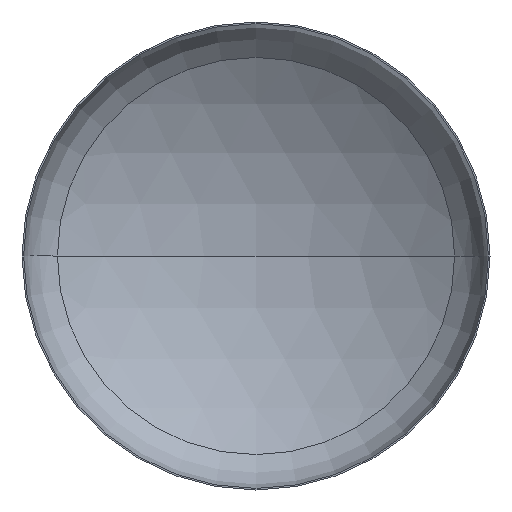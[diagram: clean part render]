
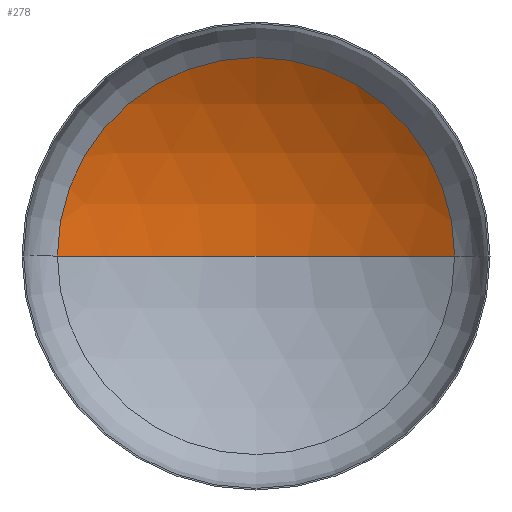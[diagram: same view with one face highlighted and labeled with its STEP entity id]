
A CAD part, front view. The second image highlights one B-rep face of the part: STEP entity #278.
In plain terms, the highlighted spherical face has radius 6000 mm.
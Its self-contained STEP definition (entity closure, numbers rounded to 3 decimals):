
#1 = DIRECTION ( 'NONE',  ( 1., 0., 0. ) ) ;
#3 = DIRECTION ( 'NONE',  ( 0., 0., 1. ) ) ;
#21 = ORIENTED_EDGE ( 'NONE', *, *, #157, .F. ) ;
#31 = VERTEX_POINT ( 'NONE', #271 ) ;
#38 = VERTEX_POINT ( 'NONE', #273 ) ;
#47 = AXIS2_PLACEMENT_3D ( 'NONE', #167, #382, #61 ) ;
#61 = DIRECTION ( 'NONE',  ( -1., 0., 0. ) ) ;
#96 = VERTEX_POINT ( 'NONE', #236 ) ;
#99 = AXIS2_PLACEMENT_3D ( 'NONE', #404, #3, #1 ) ;
#101 = EDGE_LOOP ( 'NONE', ( #21, #105, #117 ) ) ;
#105 = ORIENTED_EDGE ( 'NONE', *, *, #154, .T. ) ;
#115 = AXIS2_PLACEMENT_3D ( 'NONE', #201, #202, #183 ) ;
#117 = ORIENTED_EDGE ( 'NONE', *, *, #153, .T. ) ;
#119 = AXIS2_PLACEMENT_3D ( 'NONE', #277, #209, #208 ) ;
#153 = EDGE_CURVE ( 'NONE', #31, #96, #410, .T. ) ;
#154 = EDGE_CURVE ( 'NONE', #38, #31, #305, .T. ) ;
#157 = EDGE_CURVE ( 'NONE', #38, #96, #360, .T. ) ;
#167 = CARTESIAN_POINT ( 'NONE',  ( 0., -4032.204, 0. ) ) ;
#183 = DIRECTION ( 'NONE',  ( -1., 0., 0. ) ) ;
#201 = CARTESIAN_POINT ( 'NONE',  ( 0., -4032.204, 0. ) ) ;
#202 = DIRECTION ( 'NONE',  ( 0., 0., -1. ) ) ;
#208 = DIRECTION ( 'NONE',  ( 1., 0., 0. ) ) ;
#209 = DIRECTION ( 'NONE',  ( 0., -1., 0. ) ) ;
#223 = FACE_OUTER_BOUND ( 'NONE', #101, .T. ) ;
#236 = CARTESIAN_POINT ( 'NONE',  ( -3182.663, 1054.117, 0. ) ) ;
#271 = CARTESIAN_POINT ( 'NONE',  ( 3182.663, 1054.117, 0. ) ) ;
#273 = CARTESIAN_POINT ( 'NONE',  ( 0., 1967.796, 0. ) ) ;
#277 = CARTESIAN_POINT ( 'NONE',  ( 0., 1054.117, 0. ) ) ;
#278 = ADVANCED_FACE ( 'NONE', ( #223 ), #393, .F. ) ;
#305 = CIRCLE ( 'NONE', #115, 6000. ) ;
#360 = CIRCLE ( 'NONE', #99, 6000. ) ;
#382 = DIRECTION ( 'NONE',  ( 0., 0., -1. ) ) ;
#393 = SPHERICAL_SURFACE ( 'NONE', #47, 6000. ) ;
#404 = CARTESIAN_POINT ( 'NONE',  ( 0., -4032.204, 0. ) ) ;
#410 = CIRCLE ( 'NONE', #119, 3182.663 ) ;
